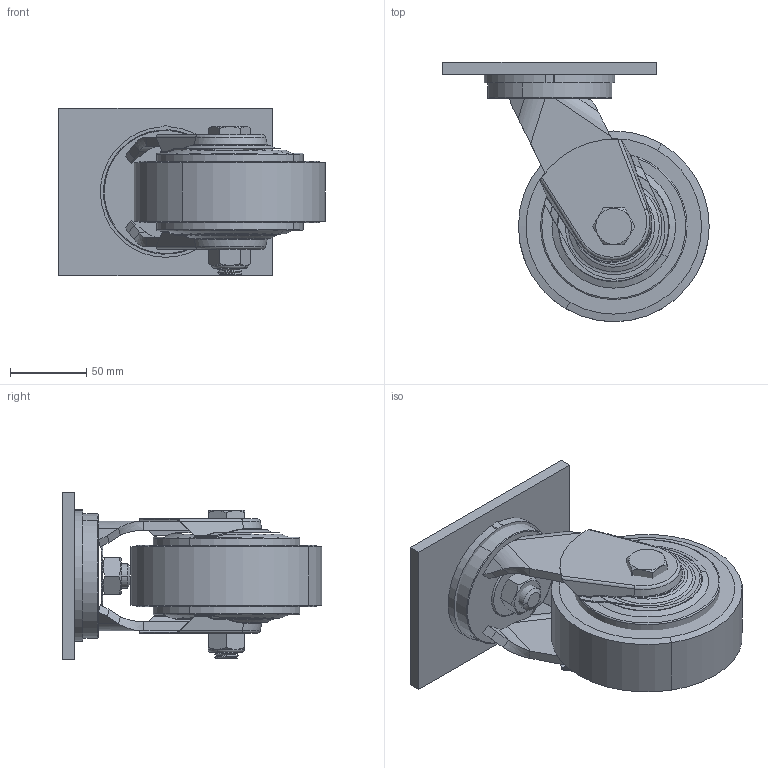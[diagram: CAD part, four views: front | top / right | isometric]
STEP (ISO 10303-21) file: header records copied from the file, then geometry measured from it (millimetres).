
FILE_DESCRIPTION((''),'2;1');
FILE_NAME('PRT0009','2025-04-24T13:47:04',('Administrator'),(''),'CREO PARAMETRIC BY PTC INC, 2024325','CREO PARAMETRIC BY PTC INC, 2024325','');
FILE_SCHEMA(('CONFIG_CONTROL_DESIGN','GEOMETRIC_VALIDATION_PROPERTIES_MIM'));
Length unit declared in the file: millimetre
Products named in the file (1): PRT0009
Bounding box: 174.5 x 170 x 110 mm (x, y, z)
Surface area: 170059 mm2 (no closed solid volume)
Topology: 0 solids, 23 shells, 180 faces, 575 edges, 417 vertices
Faces by surface type: plane 90, cylinder 31, cone 28, torus 24, bspline 7
Entity records: 8936 total; most frequent: CARTESIAN_POINT 2980, DIRECTION 885, ORIENTED_EDGE 858, EDGE_CURVE 575, VERTEX_POINT 417, AXIS2_PLACEMENT_3D 321, VECTOR 243, LINE 243
